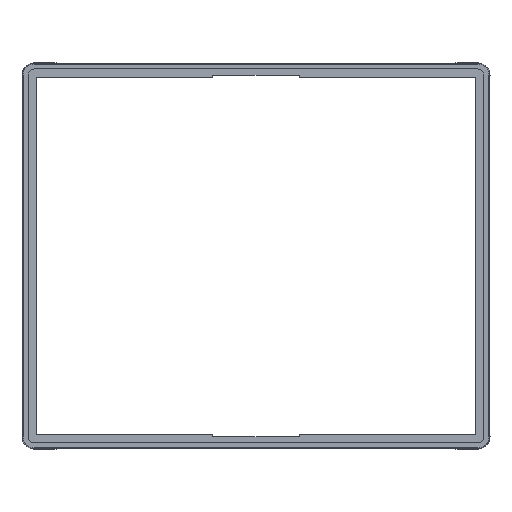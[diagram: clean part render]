
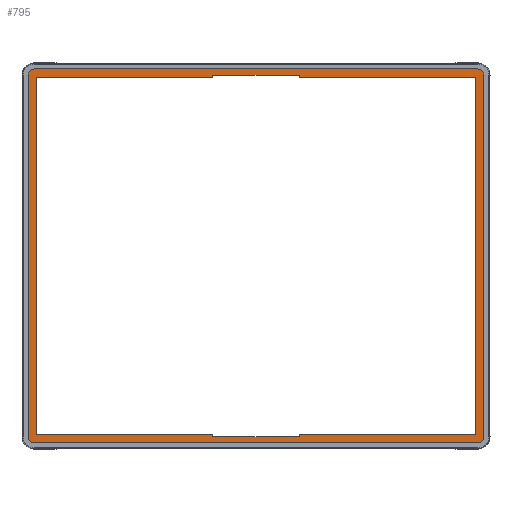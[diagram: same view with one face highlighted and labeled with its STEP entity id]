
A CAD part, top view. The second image highlights one B-rep face of the part: STEP entity #795.
In plain terms, the highlighted planar face has unit normal (0, 0, 1).
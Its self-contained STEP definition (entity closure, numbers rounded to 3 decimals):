
#264=FACE_BOUND('',#1829,.T.);
#265=FACE_BOUND('',#1830,.T.);
#322=PLANE('',#9445);
#795=ADVANCED_FACE('',(#264,#265),#322,.F.);
#1829=EDGE_LOOP('',(#3020,#3021,#3022,#3023,#3024,#3025,#3026,#3027));
#1830=EDGE_LOOP('',(#3028,#3029,#3030,#3031,#3032,#3033,#3034,#3035,#3036,
#3037,#3038,#3039));
#2371=CIRCLE('',#9440,5.65);
#2372=CIRCLE('',#9442,5.65);
#2373=CIRCLE('',#9443,5.65);
#2374=CIRCLE('',#9444,5.65);
#3020=ORIENTED_EDGE('',*,*,#6571,.F.);
#3021=ORIENTED_EDGE('',*,*,#6572,.T.);
#3022=ORIENTED_EDGE('',*,*,#6573,.F.);
#3023=ORIENTED_EDGE('',*,*,#6574,.T.);
#3024=ORIENTED_EDGE('',*,*,#6575,.F.);
#3025=ORIENTED_EDGE('',*,*,#6576,.T.);
#3026=ORIENTED_EDGE('',*,*,#6577,.F.);
#3027=ORIENTED_EDGE('',*,*,#6570,.T.);
#3028=ORIENTED_EDGE('',*,*,#6578,.T.);
#3029=ORIENTED_EDGE('',*,*,#6579,.T.);
#3030=ORIENTED_EDGE('',*,*,#6580,.T.);
#3031=ORIENTED_EDGE('',*,*,#6581,.T.);
#3032=ORIENTED_EDGE('',*,*,#6582,.T.);
#3033=ORIENTED_EDGE('',*,*,#6583,.T.);
#3034=ORIENTED_EDGE('',*,*,#6584,.T.);
#3035=ORIENTED_EDGE('',*,*,#6585,.T.);
#3036=ORIENTED_EDGE('',*,*,#6586,.T.);
#3037=ORIENTED_EDGE('',*,*,#6587,.T.);
#3038=ORIENTED_EDGE('',*,*,#6588,.T.);
#3039=ORIENTED_EDGE('',*,*,#6589,.T.);
#5622=VERTEX_POINT('',#13456);
#5623=VERTEX_POINT('',#13458);
#5624=VERTEX_POINT('',#13462);
#5625=VERTEX_POINT('',#13464);
#5626=VERTEX_POINT('',#13466);
#5627=VERTEX_POINT('',#13468);
#5628=VERTEX_POINT('',#13470);
#5629=VERTEX_POINT('',#13472);
#5630=VERTEX_POINT('',#13475);
#5631=VERTEX_POINT('',#13476);
#5632=VERTEX_POINT('',#13478);
#5633=VERTEX_POINT('',#13480);
#5634=VERTEX_POINT('',#13482);
#5635=VERTEX_POINT('',#13484);
#5636=VERTEX_POINT('',#13486);
#5637=VERTEX_POINT('',#13488);
#5638=VERTEX_POINT('',#13490);
#5639=VERTEX_POINT('',#13492);
#5640=VERTEX_POINT('',#13494);
#5641=VERTEX_POINT('',#13496);
#6570=EDGE_CURVE('',#5622,#5623,#2371,.T.);
#6571=EDGE_CURVE('',#5624,#5623,#7847,.T.);
#6572=EDGE_CURVE('',#5624,#5625,#2372,.T.);
#6573=EDGE_CURVE('',#5626,#5625,#7848,.T.);
#6574=EDGE_CURVE('',#5626,#5627,#2373,.T.);
#6575=EDGE_CURVE('',#5628,#5627,#7849,.T.);
#6576=EDGE_CURVE('',#5628,#5629,#2374,.T.);
#6577=EDGE_CURVE('',#5622,#5629,#7850,.T.);
#6578=EDGE_CURVE('',#5630,#5631,#7851,.T.);
#6579=EDGE_CURVE('',#5631,#5632,#7852,.T.);
#6580=EDGE_CURVE('',#5632,#5633,#7853,.T.);
#6581=EDGE_CURVE('',#5633,#5634,#7854,.T.);
#6582=EDGE_CURVE('',#5634,#5635,#7855,.T.);
#6583=EDGE_CURVE('',#5635,#5636,#7856,.T.);
#6584=EDGE_CURVE('',#5636,#5637,#7857,.T.);
#6585=EDGE_CURVE('',#5637,#5638,#7858,.T.);
#6586=EDGE_CURVE('',#5638,#5639,#7859,.T.);
#6587=EDGE_CURVE('',#5639,#5640,#7860,.T.);
#6588=EDGE_CURVE('',#5640,#5641,#7861,.T.);
#6589=EDGE_CURVE('',#5641,#5630,#7862,.T.);
#7847=LINE('',#13461,#8624);
#7848=LINE('',#13465,#8625);
#7849=LINE('',#13469,#8626);
#7850=LINE('',#13473,#8627);
#7851=LINE('',#13474,#8628);
#7852=LINE('',#13477,#8629);
#7853=LINE('',#13479,#8630);
#7854=LINE('',#13481,#8631);
#7855=LINE('',#13483,#8632);
#7856=LINE('',#13485,#8633);
#7857=LINE('',#13487,#8634);
#7858=LINE('',#13489,#8635);
#7859=LINE('',#13491,#8636);
#7860=LINE('',#13493,#8637);
#7861=LINE('',#13495,#8638);
#7862=LINE('',#13497,#8639);
#8624=VECTOR('',#10661,1.);
#8625=VECTOR('',#10664,1.);
#8626=VECTOR('',#10667,1.);
#8627=VECTOR('',#10670,1.);
#8628=VECTOR('',#10671,1.);
#8629=VECTOR('',#10672,1.);
#8630=VECTOR('',#10673,1.);
#8631=VECTOR('',#10674,1.);
#8632=VECTOR('',#10675,1.);
#8633=VECTOR('',#10676,1.);
#8634=VECTOR('',#10677,1.);
#8635=VECTOR('',#10678,1.);
#8636=VECTOR('',#10679,1.);
#8637=VECTOR('',#10680,1.);
#8638=VECTOR('',#10681,1.);
#8639=VECTOR('',#10682,1.);
#9440=AXIS2_PLACEMENT_3D('',#13459,#10657,#10658);
#9442=AXIS2_PLACEMENT_3D('',#13463,#10662,#10663);
#9443=AXIS2_PLACEMENT_3D('',#13467,#10665,#10666);
#9444=AXIS2_PLACEMENT_3D('',#13471,#10668,#10669);
#9445=AXIS2_PLACEMENT_3D('',#13498,#10683,#10684);
#10657=DIRECTION('',(0.,0.,1.));
#10658=DIRECTION('',(1.,0.,0.));
#10661=DIRECTION('',(1.,0.,0.));
#10662=DIRECTION('',(0.,0.,1.));
#10663=DIRECTION('',(0.,1.,0.));
#10664=DIRECTION('',(0.,1.,0.));
#10665=DIRECTION('',(0.,0.,1.));
#10666=DIRECTION('',(-1.,0.,0.));
#10667=DIRECTION('',(-1.,0.,0.));
#10668=DIRECTION('',(0.,0.,1.));
#10669=DIRECTION('',(0.,-1.,0.));
#10670=DIRECTION('',(0.,-1.,0.));
#10671=DIRECTION('',(0.,-1.,0.));
#10672=DIRECTION('',(-1.,0.,0.));
#10673=DIRECTION('',(0.,1.,0.));
#10674=DIRECTION('',(-1.,0.,0.));
#10675=DIRECTION('',(0.,1.,0.));
#10676=DIRECTION('',(1.,0.,0.));
#10677=DIRECTION('',(0.,1.,0.));
#10678=DIRECTION('',(1.,0.,0.));
#10679=DIRECTION('',(0.,-1.,0.));
#10680=DIRECTION('',(1.,0.,0.));
#10681=DIRECTION('',(0.,-1.,0.));
#10682=DIRECTION('',(-1.,0.,0.));
#10683=DIRECTION('',(0.,0.,-1.));
#10684=DIRECTION('',(1.,0.,0.));
#13456=CARTESIAN_POINT('',(209.89,166.61,0.));
#13458=CARTESIAN_POINT('',(204.24,172.26,0.));
#13459=CARTESIAN_POINT('',(204.24,166.61,0.));
#13461=CARTESIAN_POINT('',(-204.24,172.26,0.));
#13462=CARTESIAN_POINT('',(-204.24,172.26,0.));
#13463=CARTESIAN_POINT('',(-204.24,166.61,0.));
#13464=CARTESIAN_POINT('',(-209.89,166.61,0.));
#13465=CARTESIAN_POINT('',(-209.89,-166.61,0.));
#13466=CARTESIAN_POINT('',(-209.89,-166.61,0.));
#13467=CARTESIAN_POINT('',(-204.24,-166.61,0.));
#13468=CARTESIAN_POINT('',(-204.24,-172.26,0.));
#13469=CARTESIAN_POINT('',(204.24,-172.26,0.));
#13470=CARTESIAN_POINT('',(204.24,-172.26,0.));
#13471=CARTESIAN_POINT('',(204.24,-166.61,0.));
#13472=CARTESIAN_POINT('',(209.89,-166.61,0.));
#13473=CARTESIAN_POINT('',(209.89,166.61,0.));
#13474=CARTESIAN_POINT('',(40.,-164.697,0.));
#13475=CARTESIAN_POINT('',(40.,-164.697,0.));
#13476=CARTESIAN_POINT('',(40.,-166.56,0.));
#13477=CARTESIAN_POINT('',(40.,-166.56,0.));
#13478=CARTESIAN_POINT('',(-40.,-166.56,0.));
#13479=CARTESIAN_POINT('',(-40.,-166.56,0.));
#13480=CARTESIAN_POINT('',(-40.,-164.697,0.));
#13481=CARTESIAN_POINT('',(-40.,-164.697,0.));
#13482=CARTESIAN_POINT('',(-202.327,-164.697,0.));
#13483=CARTESIAN_POINT('',(-202.327,-164.697,0.));
#13484=CARTESIAN_POINT('',(-202.327,164.697,0.));
#13485=CARTESIAN_POINT('',(-202.327,164.697,0.));
#13486=CARTESIAN_POINT('',(-40.,164.697,0.));
#13487=CARTESIAN_POINT('',(-40.,164.697,0.));
#13488=CARTESIAN_POINT('',(-40.,166.56,0.));
#13489=CARTESIAN_POINT('',(-40.,166.56,0.));
#13490=CARTESIAN_POINT('',(40.,166.56,0.));
#13491=CARTESIAN_POINT('',(40.,166.56,0.));
#13492=CARTESIAN_POINT('',(40.,164.697,0.));
#13493=CARTESIAN_POINT('',(40.,164.697,0.));
#13494=CARTESIAN_POINT('',(202.327,164.697,0.));
#13495=CARTESIAN_POINT('',(202.327,164.697,0.));
#13496=CARTESIAN_POINT('',(202.327,-164.697,0.));
#13497=CARTESIAN_POINT('',(202.327,-164.697,0.));
#13498=CARTESIAN_POINT('',(204.24,-166.61,0.));
